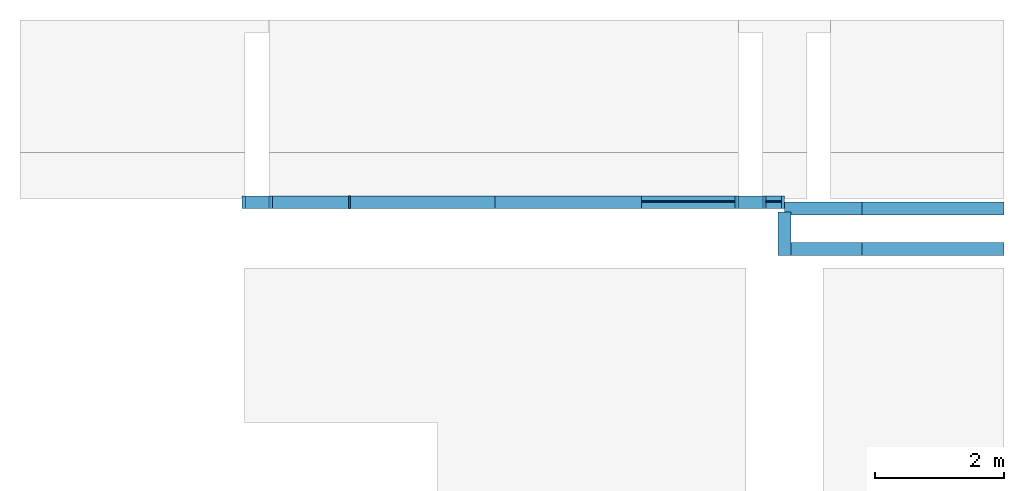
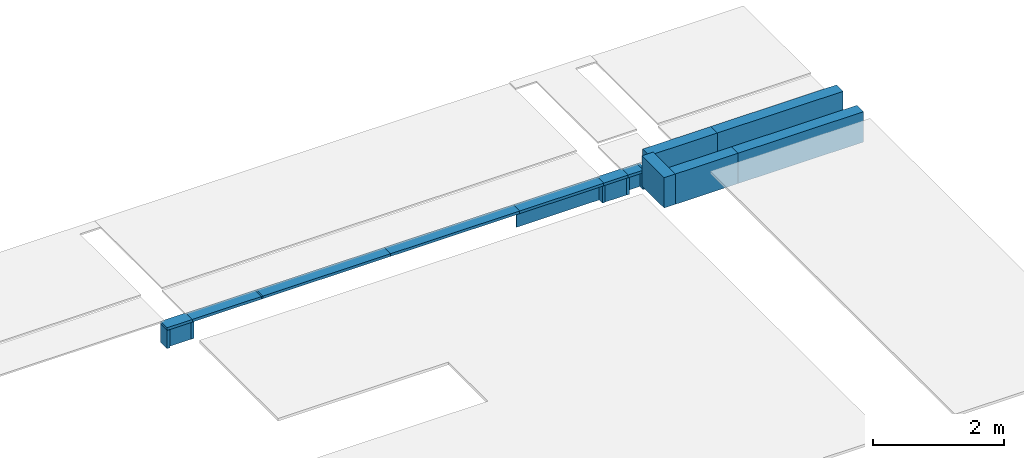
# One storey, part 1 of 2: 13 members, 5 walls, 4 plates, 3 elements without a shape of their own.
"""IFC2X3 building model written with IfcOpenShell, lengths in millimetres."""

from ifc_helpers import new_model, entity, si_unit, converted_unit, derived_unit, direction, frame, frame_2d, origin, origin_with_axes, origin_2d_with_axis, place, context, subcontext, project, spatial, rectangle, extrude, faceted_brep, source, transform, mapped, material, layer, layer_set, layer_usage, type_object, element, aggregate, save


model = new_model("IFC2X3")

# Units and contexts
model_context = context("Model", 3, precision=0.01, world=frame((0.0, 4.29681676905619e-09, 0.0)), true_north=direction((4.01073788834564e-13, 1.0)))
plan_context = context("Plan", 3, precision=0.01, world=frame((0.0, 4.29681676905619e-09, 0.0)), true_north=direction((4.01073788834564e-13, 1.0)))
body_context = subcontext(model_context, "Body", "Model", "MODEL_VIEW")
ifc_project = project(units=[converted_unit("PLANEANGLEUNIT", "DEGREE", entity("IfcPositiveLengthMeasure", 0.0174532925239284), si_unit("PLANEANGLEUNIT", "RADIAN"), dimensions=[0, 0, 0, 0, 0, 0, 0]), si_unit("AREAUNIT", "SQUARE_METRE"), si_unit("LENGTHUNIT", "METRE", prefix="MILLI"), si_unit("MASSUNIT", "GRAM", prefix="KILO"), si_unit("POWERUNIT", "WATT"), si_unit("PRESSUREUNIT", "PASCAL"), si_unit("FORCEUNIT", "NEWTON", prefix="KILO"), si_unit("ELECTRICVOLTAGEUNIT", "VOLT"), si_unit("ELECTRICCURRENTUNIT", "AMPERE"), si_unit("THERMODYNAMICTEMPERATUREUNIT", "DEGREE_CELSIUS"), si_unit("TIMEUNIT", "SECOND"), si_unit("VOLUMEUNIT", "CUBIC_METRE"), derived_unit("LINEARVELOCITYUNIT", [(si_unit("LENGTHUNIT", "METRE"), 1), (si_unit("TIMEUNIT", "SECOND"), -1)]), derived_unit("VOLUMETRICFLOWRATEUNIT", [(si_unit("VOLUMEUNIT", "CUBIC_METRE"), 1), (si_unit("TIMEUNIT", "SECOND"), -1)]), derived_unit("THERMALTRANSMITTANCEUNIT", [(si_unit("POWERUNIT", "WATT"), 1), (si_unit("THERMODYNAMICTEMPERATUREUNIT", "KELVIN"), -1), (si_unit("AREAUNIT", "SQUARE_METRE"), -1)]), derived_unit("SOUNDPRESSUREUNIT", [(si_unit("PRESSUREUNIT", "PASCAL"), 1)])], contexts=[model_context, plan_context])

# Site, building, storey
site_placement = place(None, origin_with_axes())
site = spatial("IfcSite", under=ifc_project, at=site_placement, Name="ENGM", CompositionType="ELEMENT")
building_placement = place(site_placement, origin_with_axes())
building = spatial("IfcBuilding", under=site, at=building_placement, Name="TH", CompositionType="ELEMENT")
storey_placement = place(building_placement, frame((0.0, 0.0, 205200.0), z_axis=(0.0, 0.0, 1.0), x_axis=(1.0, 0.0, 0.0)))
storey = spatial("IfcBuildingStorey", under=building, at=storey_placement, Name="Nivå D + 1,2 m", CompositionType="ELEMENT", Elevation=205200.0)

# Curtain wall, members
curtain_wall_type = type_object("IfcCurtainWallType", Name="Curtain Wall:A242 - IGV 50 x 150mm (Glass 20mm)", PredefinedType="NOTDEFINED")
curtain_wall_1_placement = place(storey_placement, frame((0.0, 0.0, -205200.0), z_axis=(0.0, 0.0, 1.0), x_axis=(1.0, 0.0, 0.0)))
curtain_wall_1 = element("IfcCurtainWall", 1, at=curtain_wall_1_placement, inside=storey, type_object=curtain_wall_type, Name="Curtain Wall:A242 - IGV 50 x 150mm (Glass 20mm)", ObjectType="Curtain Wall:A242 - IGV 50 x 150mm (Glass 20mm)")
ifc_material_1 = material(Name="T2_Metal_Aluminium")
member_type_1 = type_object("IfcMemberType", Name="Rectangular Mullion:A233 - Sprosse 50 mm - 150(post)+50(dekkprofil) utgår", PredefinedType="MULLION", material=ifc_material_1)
shared_shape_1 = source(origin(), body_context, "Body", "SweptSolid", [
    extrude(rectangle(XDim=50.0, YDim=200.0, at=frame_2d((0.0, -1.4210854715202e-14), x_axis=(1.0, 0.0))), frame((-25.0, 0.0, -2275.0), z_axis=(0.0, 0.0, 1.0), x_axis=(-1.0, 0.0, 0.0)), (0.0, 0.0, 1.0), 2274.99999999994),
])
member_1_placement = place(curtain_wall_1_placement, frame((904775.0, 484524.999999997, 209450.0), z_axis=(1.0, 0.0, 0.0), x_axis=(0.0, 0.0, 1.0)))
member_1 = element("IfcMember", 2, at=member_1_placement, type_object=member_type_1, material=ifc_material_1, Name="Rectangular Mullion:A233 - Sprosse 50 mm - 150(post)+50(dekkprofil) utgår", ObjectType="Rectangular Mullion:A233 - Sprosse 50 mm - 150(post)+50(dekkprofil) utgår", context=body_context, shape_type="MappedRepresentation", body=[
    mapped(shared_shape_1, transform((0.0, 0.0, 0.0), scale=1.0)),
])
member_type_2 = type_object("IfcMemberType", Name="Rectangular Mullion:A233 - Sprosse 50 mm - 150(post)+50(dekkprofil) utgår", PredefinedType="MULLION", material=ifc_material_1)
shared_shape_2 = source(origin(), body_context, "Body", "SweptSolid", [
    extrude(rectangle(XDim=50.0, YDim=200.0, at=frame_2d((0.0, -1.4210854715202e-14), x_axis=(1.0, 0.0))), frame((-25.0, 0.0, -2249.88447348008), z_axis=(0.0, 0.0, 1.0), x_axis=(-1.0, 0.0, 0.0)), (0.0, 0.0, 1.0), 2249.88447348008),
])
member_2_placement = place(curtain_wall_1_placement, frame((902500.0, 484524.999999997, 209450.0), z_axis=(1.0, 0.0, 0.0), x_axis=(0.0, 0.0, 1.0)))
member_2 = element("IfcMember", 3, at=member_2_placement, type_object=member_type_2, material=ifc_material_1, Name="Rectangular Mullion:A233 - Sprosse 50 mm - 150(post)+50(dekkprofil) utgår", ObjectType="Rectangular Mullion:A233 - Sprosse 50 mm - 150(post)+50(dekkprofil) utgår", context=body_context, shape_type="MappedRepresentation", body=[
    mapped(shared_shape_2, transform((0.0, 0.0, 0.0), scale=1.0)),
])
member_type_3 = type_object("IfcMemberType", Name="Rectangular Mullion:A233 - Sprosse 50 mm - 150(post)+50(dekkprofil) utgår", PredefinedType="MULLION", material=ifc_material_1)
shared_shape_3 = source(origin(), body_context, "Body", "SweptSolid", [
    extrude(rectangle(XDim=50.0, YDim=200.0, at=frame_2d((0.0, -1.4210854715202e-14), x_axis=(1.0, 0.0))), frame((-25.0, 0.0, -25.0000000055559), z_axis=(0.0, 0.0, 1.0), x_axis=(-1.0, 0.0, 0.0)), (0.0, 0.0, 1.0), 25.0000000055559),
])
member_3_placement = place(curtain_wall_1_placement, frame((900250.0, 484524.999999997, 209450.0), z_axis=(1.0, 0.0, 0.0), x_axis=(0.0, 0.0, 1.0)))
member_3 = element("IfcMember", 4, at=member_3_placement, type_object=member_type_3, material=ifc_material_1, Name="Rectangular Mullion:A233 - Sprosse 50 mm - 150(post)+50(dekkprofil) utgår", ObjectType="Rectangular Mullion:A233 - Sprosse 50 mm - 150(post)+50(dekkprofil) utgår", context=body_context, shape_type="MappedRepresentation", body=[
    mapped(shared_shape_3, transform((0.0, 0.0, 0.0), scale=1.0)),
])
aggregate(curtain_wall_1, [member_1, member_2, member_3])

curtain_wall_2_placement = place(storey_placement, frame((0.0, 0.0, -205200.0), z_axis=(0.0, 0.0, 1.0), x_axis=(1.0, 0.0, 0.0)))
curtain_wall_2 = element("IfcCurtainWall", 5, at=curtain_wall_2_placement, inside=storey, type_object=curtain_wall_type, Name="Curtain Wall:A242 - IGV 50 x 150mm (Glass 20mm)", ObjectType="Curtain Wall:A242 - IGV 50 x 150mm (Glass 20mm)")
member_type_4 = type_object("IfcMemberType", Name="Rectangular Mullion:A233 - Sprosse 50 mm - 150(post)+50(dekkprofil) utgår", PredefinedType="MULLION", material=ifc_material_1)
shared_shape_4 = source(origin(), body_context, "Body", "SweptSolid", [
    extrude(rectangle(XDim=50.0, YDim=200.0, at=frame_2d((0.0, -1.4210854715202e-14), x_axis=(1.0, 0.0))), frame((-25.0, 0.0, -265.0), z_axis=(0.0, 0.0, 1.0), x_axis=(-1.0, 0.0, 0.0)), (0.0, 0.0, 1.0), 264.99999999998),
])
member_4_placement = place(curtain_wall_2_placement, frame((906949.999999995, 484524.999999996, 209450.0), z_axis=(1.0, 0.0, 0.0), x_axis=(0.0, 0.0, 1.0)))
member_4 = element("IfcMember", 6, at=member_4_placement, type_object=member_type_4, material=ifc_material_1, Name="Rectangular Mullion:A233 - Sprosse 50 mm - 150(post)+50(dekkprofil) utgår", ObjectType="Rectangular Mullion:A233 - Sprosse 50 mm - 150(post)+50(dekkprofil) utgår", context=body_context, shape_type="MappedRepresentation", body=[
    mapped(shared_shape_4, transform((0.0, 0.0, 0.0), scale=1.0)),
])
member_type_5 = type_object("IfcMemberType", Name="Rectangular Mullion:A233 - Sprosse 50 mm - 150(post)+50(dekkprofil) utgår", PredefinedType="MULLION", material=ifc_material_1)
shared_shape_5 = source(origin(), body_context, "Body", "SweptSolid", [
    extrude(rectangle(XDim=50.0, YDim=200.0, at=frame_2d((0.0, -1.4210854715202e-14), x_axis=(1.0, 0.0))), frame((-25.0, 0.0, -365.0), z_axis=(0.0, 0.0, 1.0), x_axis=(-1.0, 0.0, 0.0)), (0.0, 0.0, 1.0), 365.000000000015),
])
member_5_placement = place(curtain_wall_2_placement, frame((906999.999999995, 484524.999999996, 209085.0), z_axis=(0.0, 0.0, -1.0), x_axis=(1.0, 0.0, 0.0)))
member_5 = element("IfcMember", 7, at=member_5_placement, type_object=member_type_5, material=ifc_material_1, Name="Rectangular Mullion:A233 - Sprosse 50 mm - 150(post)+50(dekkprofil) utgår", ObjectType="Rectangular Mullion:A233 - Sprosse 50 mm - 150(post)+50(dekkprofil) utgår", context=body_context, shape_type="MappedRepresentation", body=[
    mapped(shared_shape_5, transform((0.0, 0.0, 0.0), scale=1.0)),
])
member_type_6 = type_object("IfcMemberType", Name="Rectangular Mullion:A233 - Sprosse 50 mm - 150(post)+50(dekkprofil) utgår", PredefinedType="MULLION", material=ifc_material_1)
shared_shape_6 = source(origin(), body_context, "Body", "SweptSolid", [
    extrude(rectangle(XDim=50.0, YDim=200.0, at=frame_2d((0.0, -1.4210854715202e-14), x_axis=(1.0, 0.0))), frame((-25.0, 0.0, -1480.0), z_axis=(0.0, 0.0, 1.0), x_axis=(-1.0, 0.0, 0.0)), (0.0, 0.0, 1.0), 1479.99999999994),
])
member_6_placement = place(curtain_wall_2_placement, frame((906254.999999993, 484524.999999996, 209450.0), z_axis=(1.0, 0.0, 0.0), x_axis=(0.0, 0.0, 1.0)))
member_6 = element("IfcMember", 8, at=member_6_placement, type_object=member_type_6, material=ifc_material_1, Name="Rectangular Mullion:A233 - Sprosse 50 mm - 150(post)+50(dekkprofil) utgår", ObjectType="Rectangular Mullion:A233 - Sprosse 50 mm - 150(post)+50(dekkprofil) utgår", context=body_context, shape_type="MappedRepresentation", body=[
    mapped(shared_shape_6, transform((0.0, 0.0, 0.0), scale=1.0)),
])
member_type_7 = type_object("IfcMemberType", Name="Rectangular Mullion:A233 - Sprosse 50 mm - 150(post)+50(dekkprofil) utgår", PredefinedType="MULLION", material=ifc_material_1)
shared_shape_7 = source(origin(), body_context, "Body", "SweptSolid", [
    extrude(rectangle(XDim=50.0, YDim=200.0, at=frame_2d((0.0, -1.4210854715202e-14), x_axis=(1.0, 0.0))), frame((0.0, 0.0, -315.0), z_axis=(0.0, 0.0, 1.0), x_axis=(-1.0, 0.0, 0.0)), (0.0, 0.0, 1.0), 315.000000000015),
])
member_7_placement = place(curtain_wall_2_placement, frame((906254.999999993, 484524.999999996, 209085.0), z_axis=(0.0, 0.0, -1.0), x_axis=(1.0, 0.0, 0.0)))
member_7 = element("IfcMember", 9, at=member_7_placement, type_object=member_type_7, material=ifc_material_1, Name="Rectangular Mullion:A233 - Sprosse 50 mm - 150(post)+50(dekkprofil) utgår", ObjectType="Rectangular Mullion:A233 - Sprosse 50 mm - 150(post)+50(dekkprofil) utgår", context=body_context, shape_type="MappedRepresentation", body=[
    mapped(shared_shape_7, transform((0.0, 0.0, 0.0), scale=1.0)),
])
member_8_placement = place(curtain_wall_2_placement, frame((906684.999999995, 484524.999999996, 209085.0), z_axis=(0.0, 0.0, -1.0), x_axis=(1.0, 0.0, 0.0)))
member_8 = element("IfcMember", 10, at=member_8_placement, type_object=member_type_7, material=ifc_material_1, Name="Rectangular Mullion:A233 - Sprosse 50 mm - 150(post)+50(dekkprofil) utgår", ObjectType="Rectangular Mullion:A233 - Sprosse 50 mm - 150(post)+50(dekkprofil) utgår", context=body_context, shape_type="MappedRepresentation", body=[
    mapped(shared_shape_7, transform((0.0, 0.0, 0.0), scale=1.0)),
])

# Curtain wall, member
curtain_wall_3_placement = place(storey_placement, frame((0.0, 0.0, -205200.0), z_axis=(0.0, 0.0, 1.0), x_axis=(1.0, 0.0, 0.0)))
curtain_wall_3 = element("IfcCurtainWall", 11, at=curtain_wall_3_placement, inside=storey, type_object=curtain_wall_type, Name="Curtain Wall:A242 - IGV 50 x 150mm (Glass 20mm)", ObjectType="Curtain Wall:A242 - IGV 50 x 150mm (Glass 20mm)")
member_9_placement = place(curtain_wall_3_placement, frame((899009.999999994, 484524.999999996, 209085.0), z_axis=(0.0, 0.0, -1.0), x_axis=(1.0, 0.0, 0.0)))
member_9 = element("IfcMember", 12, at=member_9_placement, type_object=member_type_7, material=ifc_material_1, Name="Rectangular Mullion:A233 - Sprosse 50 mm - 150(post)+50(dekkprofil) utgår", ObjectType="Rectangular Mullion:A233 - Sprosse 50 mm - 150(post)+50(dekkprofil) utgår", context=body_context, shape_type="MappedRepresentation", body=[
    mapped(shared_shape_7, transform((0.0, 0.0, 0.0), scale=1.0)),
])

# Member
member_type_8 = type_object("IfcMemberType", Name="Rectangular Mullion:A233 - Sprosse 50 mm - 150(post)+50(dekkprofil) utgår", PredefinedType="MULLION", material=ifc_material_1)
shared_shape_8 = source(origin(), body_context, "Body", "SweptSolid", [
    extrude(rectangle(XDim=50.0, YDim=200.0, at=frame_2d((0.0, -1.4210854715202e-14), x_axis=(1.0, 0.0))), frame((-25.0, 0.0, -430.00000000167), z_axis=(0.0, 0.0, 1.0), x_axis=(-1.0, 0.0, 0.0)), (0.0, 0.0, 1.0), 430.00000000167),
])
member_10_placement = place(curtain_wall_2_placement, frame((906684.999999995, 484524.999999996, 209450.0), z_axis=(1.0, 0.0, 0.0), x_axis=(0.0, 0.0, 1.0)))
member_10 = element("IfcMember", 13, at=member_10_placement, type_object=member_type_8, material=ifc_material_1, Name="Rectangular Mullion:A233 - Sprosse 50 mm - 150(post)+50(dekkprofil) utgår", ObjectType="Rectangular Mullion:A233 - Sprosse 50 mm - 150(post)+50(dekkprofil) utgår", context=body_context, shape_type="MappedRepresentation", body=[
    mapped(shared_shape_8, transform((0.0, 0.0, 0.0), scale=1.0)),
])

member_type_9 = type_object("IfcMemberType", Name="Rectangular Mullion:A233 - Sprosse 50 mm - 150(post)+50(dekkprofil) utgår", PredefinedType="MULLION", material=ifc_material_1)
shared_shape_9 = source(origin(), body_context, "Body", "SweptSolid", [
    extrude(rectangle(XDim=50.0, YDim=200.0, at=frame_2d((0.0, -1.4210854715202e-14), x_axis=(1.0, 0.0))), frame((-25.0, 0.0, -1215.0), z_axis=(0.0, 0.0, 1.0), x_axis=(-1.0, 0.0, 0.0)), (0.0, 0.0, 1.0), 1214.99999999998),
])
member_11_placement = place(curtain_wall_3_placement, frame((900224.999999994, 484524.999999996, 209450.0), z_axis=(1.0, 0.0, 0.0), x_axis=(0.0, 0.0, 1.0)))
member_11 = element("IfcMember", 14, at=member_11_placement, type_object=member_type_9, material=ifc_material_1, Name="Rectangular Mullion:A233 - Sprosse 50 mm - 150(post)+50(dekkprofil) utgår", ObjectType="Rectangular Mullion:A233 - Sprosse 50 mm - 150(post)+50(dekkprofil) utgår", context=body_context, shape_type="MappedRepresentation", body=[
    mapped(shared_shape_9, transform((0.0, 0.0, 0.0), scale=1.0)),
])

member_type_10 = type_object("IfcMemberType", Name="Rectangular Mullion:A233 - Sprosse 50 mm - 150(post)+50(dekkprofil) utgår", PredefinedType="MULLION", material=ifc_material_1)
shared_shape_10 = source(origin(), body_context, "Body", "SweptSolid", [
    extrude(rectangle(XDim=50.0, YDim=200.0, at=frame_2d((0.0, -1.4210854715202e-14), x_axis=(1.0, 0.0))), frame((-25.0, 0.0, -340.0), z_axis=(0.0, 0.0, 1.0), x_axis=(-1.0, 0.0, 0.0)), (0.0, 0.0, 1.0), 340.000000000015),
])
member_12_placement = place(curtain_wall_3_placement, frame((898564.999999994, 484524.999999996, 209400.0), z_axis=(0.0, 0.0, 1.0), x_axis=(-1.0, 0.0, 0.0)))
member_12 = element("IfcMember", 15, at=member_12_placement, type_object=member_type_10, material=ifc_material_1, Name="Rectangular Mullion:A233 - Sprosse 50 mm - 150(post)+50(dekkprofil) utgår", ObjectType="Rectangular Mullion:A233 - Sprosse 50 mm - 150(post)+50(dekkprofil) utgår", context=body_context, shape_type="MappedRepresentation", body=[
    mapped(shared_shape_10, transform((0.0, 0.0, 0.0), scale=1.0)),
])

member_type_11 = type_object("IfcMemberType", Name="Rectangular Mullion:A233 - Sprosse 50 mm - 150(post)+50(dekkprofil) utgår", PredefinedType="MULLION", material=ifc_material_1)
shared_shape_11 = source(origin(), body_context, "Body", "SweptSolid", [
    extrude(rectangle(XDim=50.0, YDim=200.0, at=frame_2d((0.0, -1.4210854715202e-14), x_axis=(1.0, 0.0))), frame((-25.0, 0.0, -445.0), z_axis=(0.0, 0.0, 1.0), x_axis=(-1.0, 0.0, 0.0)), (0.0, 0.0, 1.0), 444.999999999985),
])
member_13_placement = place(curtain_wall_3_placement, frame((899009.999999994, 484524.999999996, 209450.0), z_axis=(1.0, 0.0, 0.0), x_axis=(0.0, 0.0, 1.0)))
member_13 = element("IfcMember", 16, at=member_13_placement, type_object=member_type_11, material=ifc_material_1, Name="Rectangular Mullion:A233 - Sprosse 50 mm - 150(post)+50(dekkprofil) utgår", ObjectType="Rectangular Mullion:A233 - Sprosse 50 mm - 150(post)+50(dekkprofil) utgår", context=body_context, shape_type="MappedRepresentation", body=[
    mapped(shared_shape_11, transform((0.0, 0.0, 0.0), scale=1.0)),
])

# Plate
ifc_material_2 = material(Name="Glass(Avinor)")
plate_type_1 = type_object("IfcPlateType", Name="System Panel:A234 - Glass - 20 mm", PredefinedType="CURTAIN_PANEL", material=ifc_material_2)
shared_shape_12 = source(origin(), body_context, "Body", "SweptSolid", [
    extrude(rectangle(XDim=20.0, YDim=1454.99999999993, at=origin_2d_with_axis()), frame((0.0, 10.0, 0.0), z_axis=(0.0, 0.0, 1.0), x_axis=(0.0, 1.0, 0.0)), (0.0, 0.0, 1.0), 315.000000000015),
])
plate_1_placement = place(curtain_wall_2_placement, frame((905502.499999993, 484524.999999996, 209085.0), z_axis=(0.0, 0.0, 1.0), x_axis=(1.0, 0.0, 0.0)))
plate_1 = element("IfcPlate", 17, at=plate_1_placement, type_object=plate_type_1, material=ifc_material_2, Name="System Panel:A234 - Glass - 20 mm", ObjectType="System Panel:A234 - Glass - 20 mm", context=body_context, shape_type="MappedRepresentation", body=[
    mapped(shared_shape_12, transform((0.0, 0.0, 0.0), scale=1.0)),
])

plate_type_2 = type_object("IfcPlateType", Name="System Panel:A234 - Glass - 20 mm", PredefinedType="CURTAIN_PANEL", material=ifc_material_2)
shared_shape_13 = source(origin(), body_context, "Body", "SweptSolid", [
    extrude(rectangle(XDim=20.0, YDim=239.999999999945, at=origin_2d_with_axis()), frame((0.0, 10.0, 0.0), z_axis=(0.0, 0.0, 1.0), x_axis=(0.0, 1.0, 0.0)), (0.0, 0.0, 1.0), 315.000000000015),
])
plate_2_placement = place(curtain_wall_2_placement, frame((906829.999999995, 484524.999999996, 209085.0), z_axis=(0.0, 0.0, 1.0), x_axis=(1.0, 0.0, 0.0)))
plate_2 = element("IfcPlate", 18, at=plate_2_placement, type_object=plate_type_2, material=ifc_material_2, Name="System Panel:A234 - Glass - 20 mm", ObjectType="System Panel:A234 - Glass - 20 mm", context=body_context, shape_type="MappedRepresentation", body=[
    mapped(shared_shape_13, transform((0.0, 0.0, 0.0), scale=1.0)),
])

ifc_material_3 = material(Name="Metal - Preget plate")
ifc_layer_1 = layer(ifc_material_3, 5.0)
ifc_material_4 = material(Name="T2_Tre Finerplate")
ifc_layer_2 = layer(ifc_material_4, 15.0)
ifc_material_5 = material(Name="_NSW Isolasjon trykkfast")
ifc_layer_3 = layer(ifc_material_5, 150.0)
ifc_layer_4 = layer(ifc_material_4, 15.0)
ifc_layer_5 = layer(ifc_material_3, 5.0)
ifc_layer_set_1 = layer_set([ifc_layer_1, ifc_layer_2, ifc_layer_3, ifc_layer_4, ifc_layer_5], Name="Basic Wall:A231 - Yttervegg - Tettfelt Systemvindu")
ifc_layer_usage_1 = layer_usage(ifc_layer_set_1, "AXIS2", "NEGATIVE", 95.0)
plate_type_3 = type_object("IfcPlateType", Name="Basic Wall:A231 - Yttervegg - Tettfelt Systemvindu", PredefinedType="CURTAIN_PANEL", material=ifc_layer_set_1)
plate_3_placement = place(curtain_wall_2_placement, frame((906279.999999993, 484524.999999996, 209085.0), z_axis=(0.0, 0.0, 1.0), x_axis=(1.0, 0.0, 0.0)))
plate_3 = element("IfcPlate", 19, at=plate_3_placement, type_object=plate_type_3, material=ifc_layer_usage_1, Name="Basic Wall:A231 - Yttervegg - Tettfelt Systemvindu", ObjectType="Basic Wall:A231 - Yttervegg - Tettfelt Systemvindu", context=body_context, shape_type="SweptSolid", body=[
    extrude(rectangle(XDim=189.999999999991, YDim=380.000000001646, at=frame_2d((3.46531692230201e-11, -6.93063384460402e-11), x_axis=(1.0, 0.0))), frame((190.0, 0.0, 0.0), z_axis=(0.0, 0.0, 1.0), x_axis=(0.0, 1.0, 0.0)), (0.0, 0.0, 1.0), 315.000000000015),
])

aggregate(curtain_wall_2, [member_4, member_5, member_6, member_7, member_10, member_8, plate_1, plate_3, plate_2])

ifc_layer_usage_2 = layer_usage(ifc_layer_set_1, "AXIS2", "NEGATIVE", 95.0)
plate_4_placement = place(curtain_wall_3_placement, frame((898614.999999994, 484524.999999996, 209085.0), z_axis=(0.0, 0.0, 1.0), x_axis=(1.0, 0.0, 0.0)))
plate_4 = element("IfcPlate", 20, at=plate_4_placement, type_object=plate_type_3, material=ifc_layer_usage_2, Name="Basic Wall:A231 - Yttervegg - Tettfelt Systemvindu", ObjectType="Basic Wall:A231 - Yttervegg - Tettfelt Systemvindu", context=body_context, shape_type="SweptSolid", body=[
    extrude(rectangle(XDim=189.999999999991, YDim=369.999999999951, at=frame_2d((3.46531692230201e-11, 0.0), x_axis=(1.0, 0.0))), frame((185.0, 0.0, 0.0), z_axis=(0.0, 0.0, 1.0), x_axis=(0.0, 1.0, 0.0)), (0.0, 0.0, 1.0), 315.000000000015),
])

aggregate(curtain_wall_3, [member_11, member_12, member_13, member_9, plate_4])

# Walls
ifc_layer_6 = layer(ifc_material_5, 200.0)
ifc_layer_set_2 = layer_set([ifc_layer_6], Name="Basic Wall:A231 - Yttervegg - Isolasjonsjikt 200mm")
wall_type = type_object("IfcWallType", Name="Basic Wall:A231 - Yttervegg - Isolasjonsjikt 200mm", PredefinedType="STANDARD", material=ifc_layer_set_2)
wall_1_placement = place(storey_placement, frame((907000.0, 484374.999999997, 3500.0), z_axis=(0.0, 0.0, 1.0), x_axis=(0.0, -1.0, 0.0)))
element("IfcWall", 21, at=wall_1_placement, inside=storey, type_object=wall_type, Name="Basic Wall:A231 - Yttervegg - Isolasjonsjikt 200mm", ObjectType="Basic Wall:A231 - Yttervegg - Isolasjonsjikt 200mm", context=body_context, shape_type="Brep", body=[
    faceted_brep([(675.000000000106, 100.000000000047, 500.0), (675.000000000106, -99.999999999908, 500.0), (675.000000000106, -99.999999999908, 1064.99999999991), (675.000000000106, 100.000000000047, 1064.99999999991), (0.0, 100.000000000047, 500.0), (0.0, 100.000000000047, 1064.99999999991), (0.0, -99.999999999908, 500.0), (0.0, -99.999999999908, 1064.99999999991)], [[[0, 1, 2, 3]], [[4, 0, 3, 5]], [[6, 4, 5, 7]], [[1, 6, 7, 2]], [[3, 2, 7, 5]], [[4, 6, 1, 0]]], orient=[[False], [False], [False], [False], [False], [False]]),
])
wall_2_placement = place(storey_placement, frame((907100.0, 483799.999999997, 3500.0), z_axis=(0.0, 0.0, 1.0), x_axis=(1.0, 0.0, 0.0)))
element("IfcWall", 22, at=wall_2_placement, inside=storey, type_object=wall_type, Name="Basic Wall:A231 - Yttervegg - Isolasjonsjikt 200mm", ObjectType="Basic Wall:A231 - Yttervegg - Isolasjonsjikt 200mm", context=body_context, shape_type="Brep", body=[
    faceted_brep([(0.0, -100.000000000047, 500.0), (0.0, 99.9999999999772, 500.0), (0.0, 99.9999999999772, 1064.99999999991), (0.0, -100.000000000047, 1064.99999999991), (3310.58484179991, -100.000000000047, 1064.99999999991), (3310.58484179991, -100.000000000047, 500.0), (3310.58484179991, 99.9999999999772, 500.0), (3310.58484179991, 99.9999999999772, 1064.99999999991)], [[[0, 1, 2, 3]], [[4, 5, 0, 3]], [[1, 6, 7, 2]], [[7, 4, 3, 2]], [[5, 4, 7, 6]], [[6, 1, 0, 5]]], orient=[[False], [False], [False], [False], [False], [False]]),
])
wall_3_placement = place(storey_placement, frame((907100.0, 484425.0, 3500.0), z_axis=(0.0, 0.0, 1.0), x_axis=(1.0, 0.0, 0.0)))
element("IfcWall", 23, at=wall_3_placement, inside=storey, type_object=wall_type, Name="Basic Wall:A231 - Yttervegg - Isolasjonsjikt 200mm", ObjectType="Basic Wall:A231 - Yttervegg - Isolasjonsjikt 200mm", context=body_context, shape_type="Brep", body=[
    faceted_brep([(3310.5848417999, -100.000000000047, 1064.99999999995), (3310.58484179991, -100.000000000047, 500.0), (-3.27418092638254e-11, -100.000000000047, 500.0), (-3.27418092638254e-11, -100.000000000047, 1064.99999999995), (-3.27418092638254e-11, 99.9999999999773, 500.0), (3310.58484179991, 99.9999999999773, 500.0), (3310.5848417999, 99.9999999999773, 1064.99999999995), (-3.27418092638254e-11, 99.9999999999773, 1064.99999999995)], [[[0, 1, 2, 3]], [[4, 5, 6, 7]], [[2, 4, 7, 3]], [[6, 0, 3, 7]], [[1, 0, 6, 5]], [[5, 4, 2, 1]]], orient=[[False], [False], [False], [False], [False], [False]]),
])
wall_4_placement = place(storey_placement, frame((907000.000000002, 484424.999999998, 3500.0), z_axis=(0.0, 0.0, 1.0), x_axis=(1.0, 0.0, 0.0)))
element("IfcWall", 24, at=wall_4_placement, inside=storey, type_object=wall_type, Name="Basic Wall:A231 - Yttervegg - Isolasjonsjikt 200mm", ObjectType="Basic Wall:A231 - Yttervegg - Isolasjonsjikt 200mm", context=body_context, shape_type="Brep", body=[
    faceted_brep([(1199.99999999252, -100.000000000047, 500.0), (0.0, -100.000000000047, 500.0), (0.0, -100.000000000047, 1064.99999999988), (1199.99999999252, -100.000000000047, 1064.99999999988), (1199.99999999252, 99.9999999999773, 500.0), (1199.99999999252, 99.9999999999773, 1064.99999999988), (0.0, 99.9999999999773, 500.0), (0.0, 99.9999999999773, 1064.99999999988)], [[[0, 1, 2, 3]], [[4, 0, 3, 5]], [[6, 4, 5, 7]], [[1, 6, 7, 2]], [[3, 2, 7, 5]], [[4, 6, 1, 0]]], orient=[[False], [False], [False], [False], [False], [False]]),
])
wall_5_placement = place(storey_placement, frame((907099.999999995, 483799.999999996, 3500.0), z_axis=(0.0, 0.0, 1.0), x_axis=(1.0, 0.0, 0.0)))
element("IfcWall", 25, at=wall_5_placement, inside=storey, type_object=wall_type, Name="Basic Wall:A231 - Yttervegg - Isolasjonsjikt 200mm", ObjectType="Basic Wall:A231 - Yttervegg - Isolasjonsjikt 200mm", context=body_context, shape_type="Brep", body=[
    faceted_brep([(1100.00000000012, -100.000000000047, 500.0), (2.11457518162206e-11, -100.000000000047, 500.0), (2.11457518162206e-11, -100.000000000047, 1064.99999999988), (1100.00000000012, -100.000000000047, 1064.99999999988), (1100.00000000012, 99.9999999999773, 500.0), (1100.00000000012, 99.9999999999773, 1064.99999999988), (2.11457518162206e-11, 99.9999999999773, 500.0), (2.11457518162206e-11, 99.9999999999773, 1064.99999999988)], [[[0, 1, 2, 3]], [[4, 0, 3, 5]], [[6, 4, 5, 7]], [[1, 6, 7, 2]], [[3, 2, 7, 5]], [[4, 6, 1, 0]]], orient=[[False], [False], [False], [False], [False], [False]]),
])

save(model, "model.ifc")
